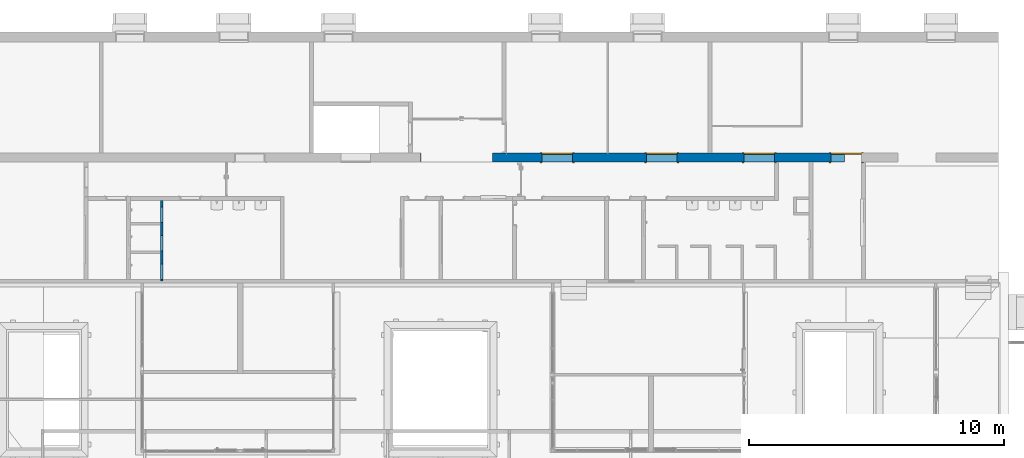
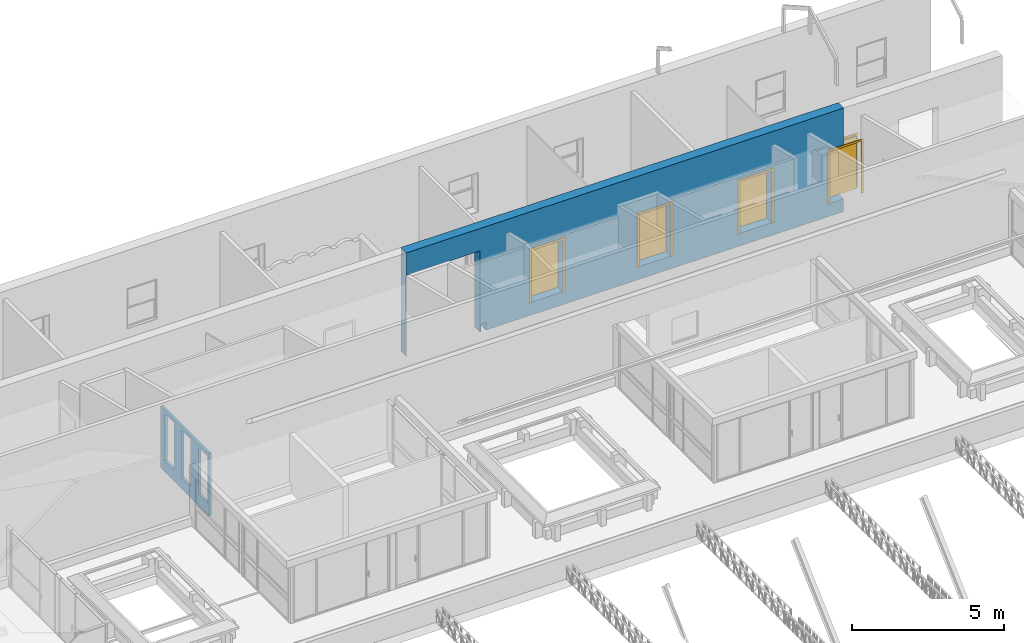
# One storey, part 137 of 153: 4 doors, 2 walls, 9 openings.
"""IFC4 building model written with IfcOpenShell, lengths in metres."""

from ifc_helpers import new_model, entity, si_unit, converted_unit, derived_unit, direction, frame, origin, place, context, subcontext, project, spatial, indexed_curve, outline, extrude, polygons, source, transform, mapped, material, constituent, constituent_set, type_object, type_shapes, element, fill, save


model = new_model("IFC4")

# Units and contexts
model_context = context("Model", 3, precision=1e-05, world=origin(), true_north=direction((6.123031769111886e-17, 1.0)))
body_context = subcontext(model_context, "Body", "Model", "MODEL_VIEW")
ifc_project = project(units=[si_unit("LENGTHUNIT", "METRE"), si_unit("AREAUNIT", "SQUARE_METRE"), si_unit("VOLUMEUNIT", "CUBIC_METRE"), converted_unit("PLANEANGLEUNIT", "DEGREE", entity("IfcRatioMeasure", 0.017453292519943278), si_unit("PLANEANGLEUNIT", "RADIAN"), dimensions=[0, 0, 0, 0, 0, 0, 0]), si_unit("MASSUNIT", "GRAM", prefix="KILO"), derived_unit("MASSDENSITYUNIT", [(si_unit("MASSUNIT", "GRAM", prefix="KILO"), 1), (si_unit("LENGTHUNIT", "METRE"), -3)]), derived_unit("MOMENTOFINERTIAUNIT", [(si_unit("LENGTHUNIT", "METRE"), 4)]), si_unit("TIMEUNIT", "SECOND"), si_unit("FREQUENCYUNIT", "HERTZ"), si_unit("THERMODYNAMICTEMPERATUREUNIT", "DEGREE_CELSIUS"), derived_unit("THERMALTRANSMITTANCEUNIT", [(si_unit("MASSUNIT", "GRAM", prefix="KILO"), 1), (si_unit("THERMODYNAMICTEMPERATUREUNIT", "KELVIN"), -1), (si_unit("TIMEUNIT", "SECOND"), -3)]), derived_unit("VOLUMETRICFLOWRATEUNIT", [(si_unit("LENGTHUNIT", "METRE"), 3), (si_unit("TIMEUNIT", "SECOND"), -1)]), derived_unit("MASSFLOWRATEUNIT", [(si_unit("MASSUNIT", "GRAM", prefix="KILO"), 1), (si_unit("TIMEUNIT", "SECOND"), -1)]), derived_unit("ROTATIONALFREQUENCYUNIT", [(si_unit("TIMEUNIT", "SECOND"), -1)]), si_unit("ELECTRICCURRENTUNIT", "AMPERE"), si_unit("ELECTRICVOLTAGEUNIT", "VOLT"), si_unit("POWERUNIT", "WATT"), si_unit("FORCEUNIT", "NEWTON", prefix="KILO"), si_unit("ILLUMINANCEUNIT", "LUX"), si_unit("LUMINOUSFLUXUNIT", "LUMEN"), si_unit("LUMINOUSINTENSITYUNIT", "CANDELA"), derived_unit("USERDEFINED", [(si_unit("MASSUNIT", "GRAM", prefix="KILO"), -1), (si_unit("LENGTHUNIT", "METRE"), -2), (si_unit("TIMEUNIT", "SECOND"), 3), (si_unit("LUMINOUSFLUXUNIT", "LUMEN"), 1)]), derived_unit("SOUNDPOWERUNIT", [(si_unit("MASSUNIT", "GRAM", prefix="KILO"), 1), (si_unit("LENGTHUNIT", "METRE"), 2), (si_unit("TIMEUNIT", "SECOND"), -3)]), derived_unit("SOUNDPRESSUREUNIT", [(si_unit("MASSUNIT", "GRAM", prefix="KILO"), 1), (si_unit("LENGTHUNIT", "METRE"), -1), (si_unit("TIMEUNIT", "SECOND"), -2)]), derived_unit("LINEARVELOCITYUNIT", [(si_unit("LENGTHUNIT", "METRE"), 1), (si_unit("TIMEUNIT", "SECOND"), -1)]), si_unit("PRESSUREUNIT", "PASCAL"), derived_unit("USERDEFINED", [(si_unit("LENGTHUNIT", "METRE"), -2), (si_unit("MASSUNIT", "GRAM", prefix="KILO"), 1), (si_unit("TIMEUNIT", "SECOND"), -2)]), derived_unit("LINEARFORCEUNIT", [(si_unit("MASSUNIT", "GRAM", prefix="KILO"), 1), (si_unit("LENGTHUNIT", "METRE"), 1), (si_unit("TIMEUNIT", "SECOND"), -2), (si_unit("LENGTHUNIT", "METRE"), -1)]), derived_unit("PLANARFORCEUNIT", [(si_unit("MASSUNIT", "GRAM", prefix="KILO"), 1), (si_unit("LENGTHUNIT", "METRE"), 1), (si_unit("TIMEUNIT", "SECOND"), -2), (si_unit("LENGTHUNIT", "METRE"), -2)])], contexts=[model_context])

# Site, building, storey
site_placement = place(None, origin())
site = spatial("IfcSite", under=ifc_project, at=site_placement, Name="Superficie", CompositionType="ELEMENT")
building_placement = place(site_placement, origin())
building = spatial("IfcBuilding", under=site, at=building_placement, CompositionType="ELEMENT")
storey_placement = place(building_placement, frame((0.0, 0.0, 3.5999999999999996)))
storey = spatial("IfcBuildingStorey", under=building, at=storey_placement, Name="Nivel 1", CompositionType="ELEMENT", Elevation=3.5999999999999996)

# Wall, openings
ifc_material_1 = material(Name="Muro por defecto", Category="Varios")
wall_type_1 = type_object("IfcWallType", Name="Muro básico:Por defecto - 10 cm", PredefinedType="STANDARD")
wall_1_placement = place(storey_placement, frame((-12.248998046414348, 8.875829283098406, 0.0), z_axis=(0.0, 0.0, 1.0), x_axis=(0.0, -1.0, 0.0)))
wall_1 = element("IfcWall", 1, at=wall_1_placement, inside=storey, type_object=wall_type_1, material=ifc_material_1, Name="Muro básico:Por defecto - 10 cm", ObjectType="Muro básico:Por defecto - 10 cm", PredefinedType="NOTDEFINED", context=body_context, shape_type="Tessellation", body=[
    polygons([(0.0, -0.050000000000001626, -5.414335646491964e-16), (0.8750000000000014, -0.050000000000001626, -5.414335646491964e-16), (0.9750000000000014, -0.050000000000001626, -5.414335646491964e-16), (3.1749999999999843, -0.050000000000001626, -5.414335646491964e-16), (3.1749999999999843, -0.050000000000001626, 2.499999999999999), (2.0800000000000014, -0.050000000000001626, 2.499999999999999), (1.9800000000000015, -0.050000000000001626, 2.499999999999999), (0.9750000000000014, -0.050000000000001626, 2.499999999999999), (0.8750000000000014, -0.050000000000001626, 2.499999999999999), (0.0, -0.050000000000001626, 2.499999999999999), (2.4996938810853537, -0.050000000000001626, 2.3499999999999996), (3.103466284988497, -0.050000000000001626, 2.3499999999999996), (3.103466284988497, -0.050000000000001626, 0.4515999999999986), (2.4996938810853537, -0.050000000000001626, 0.4515999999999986), (1.3762275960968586, -0.050000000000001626, 2.3499999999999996), (1.9800000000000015, -0.050000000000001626, 2.3499999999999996), (1.9800000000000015, -0.050000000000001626, 0.5199999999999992), (1.9800000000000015, -0.050000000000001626, 0.4515999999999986), (1.3762275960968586, -0.050000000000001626, 0.4515999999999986), (0.27122759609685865, -0.050000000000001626, 2.3499999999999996), (0.8750000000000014, -0.050000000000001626, 2.3499999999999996), (0.8750000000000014, -0.050000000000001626, 0.4515999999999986), (0.27122759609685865, -0.050000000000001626, 0.4515999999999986), (3.1749999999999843, 0.04999999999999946, -5.414335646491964e-16), (1.0828671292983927e-15, 0.04999999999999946, -5.414335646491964e-16), (0.0, 0.04999999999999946, 2.499999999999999), (3.1749999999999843, 0.04999999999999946, 2.499999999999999), (3.103466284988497, 0.04999999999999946, 2.3499999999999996), (2.4996938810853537, 0.04999999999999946, 2.3499999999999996), (2.4996938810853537, 0.04999999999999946, 0.4515999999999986), (3.103466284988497, 0.04999999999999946, 0.4515999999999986), (1.9800000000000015, 0.04999999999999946, 2.3499999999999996), (1.3762275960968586, 0.04999999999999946, 2.3499999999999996), (1.3762275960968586, 0.04999999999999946, 0.4515999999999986), (1.9800000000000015, 0.04999999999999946, 0.4515999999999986), (0.8750000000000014, 0.04999999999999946, 2.3499999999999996), (0.27122759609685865, 0.04999999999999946, 2.3499999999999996), (0.27122759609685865, 0.04999999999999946, 0.4515999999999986), (0.8750000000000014, 0.04999999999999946, 0.4515999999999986)], [[[1, 2, 3, 4, 5, 6, 7, 8, 9, 10], [11, 12, 13, 14], [15, 16, 17, 18, 19], [20, 21, 22, 23]], [[24, 25, 26, 27], [28, 29, 30, 31], [32, 33, 34, 35], [36, 37, 38, 39]], [[4, 3, 2, 1, 25, 24]], [[5, 4, 24, 27]], [[10, 9, 8, 7, 6, 5, 27, 26]], [[1, 10, 26, 25]], [[11, 29, 28, 12]], [[13, 31, 30, 14]], [[29, 11, 14, 30]], [[12, 28, 31, 13]], [[15, 33, 32, 16]], [[18, 35, 34, 19]], [[33, 15, 19, 34]], [[16, 32, 35, 18, 17]], [[20, 37, 36, 21]], [[22, 39, 38, 23]], [[37, 20, 23, 38]], [[21, 36, 39, 22]]], closed=True),
])
opening_1_placement = place(wall_1_placement, origin())
element("IfcOpeningElement", 2, at=opening_1_placement, cuts=wall_1, Name="Muro básico:Por defecto - 10 cm", PredefinedType="OPENING", context=body_context, shape_type="SweptSolid", body=[
    extrude(outline(indexed_curve([(-0.9492000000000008, -0.30188620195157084), (0.9492000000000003, -0.30188620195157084), (0.9492000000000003, 0.3018862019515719), (-0.9492000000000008, 0.3018862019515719), (-0.9492000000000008, -0.30188620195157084)], self_intersect=False)), frame((2.8015800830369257, -0.04999999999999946, 1.400799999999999), z_axis=(0.0, 1.0, 0.0), x_axis=(0.0, 0.0, -1.0)), (0.0, 0.0, 1.0), 0.09999999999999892),
])
opening_2_placement = place(wall_1_placement, origin())
element("IfcOpeningElement", 3, at=opening_2_placement, cuts=wall_1, Name="Muro básico:Por defecto - 10 cm", PredefinedType="OPENING", context=body_context, shape_type="SweptSolid", body=[
    extrude(outline(indexed_curve([(-0.9492000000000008, -0.3018862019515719), (0.9492000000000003, -0.3018862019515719), (0.9492000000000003, 0.30188620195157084), (-0.9492000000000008, 0.30188620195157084), (-0.9492000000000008, -0.3018862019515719)], self_intersect=False)), frame((1.6781137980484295, -0.04999999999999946, 1.400799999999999), z_axis=(0.0, 1.0, 0.0), x_axis=(0.0, 0.0, -1.0)), (0.0, 0.0, 1.0), 0.09999999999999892),
])
opening_3_placement = place(wall_1_placement, origin())
element("IfcOpeningElement", 4, at=opening_3_placement, cuts=wall_1, Name="Muro básico:Por defecto - 10 cm", PredefinedType="OPENING", context=body_context, shape_type="SweptSolid", body=[
    extrude(outline(indexed_curve([(-0.9492000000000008, -0.3018862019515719), (0.9492000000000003, -0.3018862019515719), (0.9492000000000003, 0.30188620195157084), (-0.9492000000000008, 0.30188620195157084), (-0.9492000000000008, -0.3018862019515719)], self_intersect=False)), frame((0.5731137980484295, -0.04999999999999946, 1.400799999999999), z_axis=(0.0, 1.0, 0.0), x_axis=(0.0, 0.0, -1.0)), (0.0, 0.0, 1.0), 0.09999999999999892),
])

# Wall, openings, doors
wall_type_2 = type_object("IfcWallType", Name="Muro básico:Por defecto - 36 cm 2", PredefinedType="STANDARD")
wall_2_placement = place(storey_placement, frame((-2.0878009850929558, 10.550829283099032, 0.0)))
wall_2 = element("IfcWall", 5, at=wall_2_placement, inside=storey, type_object=wall_type_2, material=ifc_material_1, Name="Muro básico:Por defecto - 36 cm 2", ObjectType="Muro básico:Por defecto - 36 cm 2", PredefinedType="NOTDEFINED", context=body_context, shape_type="Tessellation", body=[
    polygons([(16.638802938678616, -0.18000000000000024, 4.170000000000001), (7.029100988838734e-17, -0.18000000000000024, 4.170000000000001), (7.029100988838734e-17, -0.18000000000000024, 5.414335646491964e-16), (0.007418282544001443, -0.18000000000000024, 5.414335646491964e-16), (0.007418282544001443, -0.18000000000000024, 3.270000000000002), (2.8070587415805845, -0.18000000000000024, 3.270000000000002), (2.8070587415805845, -0.18000000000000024, 5.414335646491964e-16), (2.849353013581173, -0.18000000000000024, 5.414335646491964e-16), (2.849353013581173, -0.18000000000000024, 0.32000000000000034), (3.0293530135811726, -0.18000000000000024, 0.32000000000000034), (3.0293530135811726, -0.18000000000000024, 5.414335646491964e-16), (13.88880293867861, -0.1800000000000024, 5.414335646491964e-16), (14.03880293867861, -0.18000000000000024, 5.414335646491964e-16), (16.638802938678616, -0.18000000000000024, 5.414335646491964e-16), (16.638802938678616, -0.18000000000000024, 0.5200000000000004), (16.09880293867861, -0.18000000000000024, 0.5200000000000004), (16.09880293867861, -0.18000000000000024, 2.6199999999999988), (16.638802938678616, -0.18000000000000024, 2.6199999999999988), (4.753802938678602, -0.18000000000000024, 0.5200000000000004), (4.753802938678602, -0.18000000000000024, 2.6199999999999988), (5.9538029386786, -0.18000000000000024, 2.6199999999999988), (5.9538029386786, -0.18000000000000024, 0.5200000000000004), (8.853802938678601, -0.18000000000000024, 0.5200000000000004), (8.853802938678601, -0.18000000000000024, 2.6199999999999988), (10.053802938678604, -0.18000000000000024, 2.6199999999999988), (10.053802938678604, -0.18000000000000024, 0.5200000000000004), (12.688802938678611, -0.18000000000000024, 0.5200000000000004), (12.688802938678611, -0.18000000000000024, 2.6199999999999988), (13.88880293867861, -0.1800000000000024, 2.6199999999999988), (13.88880293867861, -0.1800000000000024, 0.5200000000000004), (-7.86441714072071e-18, 0.18000000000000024, 4.170000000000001), (16.638802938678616, 0.18000000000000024, 4.170000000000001), (16.638802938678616, 0.18000000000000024, 2.6199999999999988), (16.09880293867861, 0.18000000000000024, 2.6199999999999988), (16.098802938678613, 0.18000000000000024, 0.5200000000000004), (16.638802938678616, 0.18000000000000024, 0.5200000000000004), (16.638802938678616, 0.18000000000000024, 5.414335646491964e-16), (3.0293530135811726, 0.18000000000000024, 5.414335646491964e-16), (3.0293530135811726, 0.18000000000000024, 0.32000000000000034), (2.8493530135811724, 0.18000000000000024, 0.32000000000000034), (2.8493530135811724, 0.18000000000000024, 5.414335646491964e-16), (2.8070587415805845, 0.18000000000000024, 5.414335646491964e-16), (2.8070587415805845, 0.18000000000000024, 3.270000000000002), (0.007418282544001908, 0.18000000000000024, 3.270000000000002), (0.007418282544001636, 0.18000000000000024, 5.414335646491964e-16), (-7.86441714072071e-18, 0.18000000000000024, 5.414335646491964e-16), (4.753802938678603, 0.18000000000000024, 2.6199999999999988), (4.753802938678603, 0.18000000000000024, 0.5200000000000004), (5.953802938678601, 0.18000000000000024, 0.5200000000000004), (5.953802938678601, 0.18000000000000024, 2.6199999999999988), (8.853802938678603, 0.18000000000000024, 2.6199999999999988), (8.853802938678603, 0.18000000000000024, 0.5199999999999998), (10.053802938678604, 0.18000000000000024, 0.5199999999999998), (10.053802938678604, 0.18000000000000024, 2.6199999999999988), (12.688802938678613, 0.18000000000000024, 2.6199999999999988), (12.688802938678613, 0.18000000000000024, 0.5200000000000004), (13.888802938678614, 0.17999999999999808, 0.5200000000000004), (13.888802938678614, 0.17999999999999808, 2.6199999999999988)], [[[1, 2, 3, 4, 5, 6, 7, 8, 9, 10, 11, 12, 13, 14, 15, 16, 17, 18], [19, 20, 21, 22], [23, 24, 25, 26], [27, 28, 29, 30]], [[31, 32, 33, 34, 35, 36, 37, 38, 39, 40, 41, 42, 43, 44, 45, 46], [47, 48, 49, 50], [51, 52, 53, 54], [55, 56, 57, 58]], [[3, 46, 45, 4]], [[14, 37, 36, 15]], [[2, 1, 32, 31]], [[3, 2, 31, 46]], [[16, 35, 34, 17]], [[17, 34, 33, 18]], [[35, 16, 15, 36]], [[19, 48, 47, 20]], [[20, 47, 50, 21]], [[49, 22, 21, 50]], [[48, 19, 22, 49]], [[23, 52, 51, 24]], [[24, 51, 54, 25]], [[53, 26, 25, 54]], [[52, 23, 26, 53]], [[10, 39, 38, 11]], [[40, 9, 8, 41]], [[39, 10, 9, 40]], [[5, 44, 43, 6]], [[44, 5, 4, 45]], [[6, 43, 42, 7]], [[28, 27, 56, 55]], [[29, 28, 55, 58]], [[30, 29, 58, 57]], [[27, 30, 57, 56]], [[32, 1, 18, 33]], [[7, 42, 41, 8]], [[37, 14, 13, 12, 11, 38]]], closed=True),
])
opening_4_placement = place(wall_2_placement, origin())
element("IfcOpeningElement", 6, at=opening_4_placement, cuts=wall_2, Name="Muro básico:Por defecto - 36 cm 2", PredefinedType="OPENING", context=body_context, shape_type="SweptSolid", body=[
    extrude(outline(indexed_curve([(-1.6349999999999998, -1.3998202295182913), (1.6349999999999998, -1.3998202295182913), (1.6349999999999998, 1.3998202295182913), (-1.6349999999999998, 1.3998202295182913), (-1.6349999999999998, -1.3998202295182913)], self_intersect=False)), frame((1.407238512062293, -0.18000000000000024, 1.635000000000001), z_axis=(0.0, 1.0, 0.0), x_axis=(0.0, 0.0, -1.0)), (0.0, 0.0, 1.0), 0.3600000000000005),
])
opening_5_placement = place(wall_2_placement, origin())
element("IfcOpeningElement", 7, at=opening_5_placement, cuts=wall_2, Name="Muro básico:Por defecto - 36 cm 2", PredefinedType="OPENING", context=body_context, shape_type="SweptSolid", body=[
    extrude(outline(indexed_curve([(-0.07500000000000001, -1.049999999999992), (0.07500000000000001, -1.049999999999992), (0.07500000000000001, 1.0499999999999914), (-0.07500000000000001, 1.0499999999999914), (-0.07500000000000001, -1.049999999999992)], self_intersect=False)), frame((3.273802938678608, 0.18000000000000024, 1.5699999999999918), z_axis=(0.0, 1.0, 0.0), x_axis=(1.0, 0.0, 0.0)), (0.0, 0.0, 1.0), 1.1599999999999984),
])
opening_6_placement = place(wall_2_placement, frame((16.09880293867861, -0.18000000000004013, 0.5200000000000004)))
opening_6 = element("IfcOpeningElement", 8, at=opening_6_placement, cuts=wall_2, Name="Puerta atamborada de 2 hojas:1200 x 2100 mm 2:1", PredefinedType="OPENING", context=body_context, shape_type="SweptSolid", body=[
    extrude(outline(indexed_curve([(0.0, 5.414335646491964e-16), (2.0999999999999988, 5.414335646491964e-16), (2.099999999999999, 1.2000000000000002), (0.0, 1.2000000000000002), (0.0, 5.414335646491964e-16)], self_intersect=False)), frame((0.0, 0.0, 0.0), z_axis=(0.0, 1.0, 0.0), x_axis=(0.0, 0.0, 1.0)), (0.0, 0.0, 1.0), 0.36),
])
opening_7_placement = place(wall_2_placement, frame((4.7538029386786, -0.18000000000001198, 0.5200000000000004)))
opening_7 = element("IfcOpeningElement", 9, at=opening_7_placement, cuts=wall_2, Name="Puerta atamborada de 2 hojas:1200 x 2100 mm 2:1", PredefinedType="OPENING", context=body_context, shape_type="SweptSolid", body=[
    extrude(outline(indexed_curve([(0.0, 5.81749385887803e-32), (2.0999999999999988, 5.81749385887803e-32), (2.099999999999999, 1.1999999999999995), (0.0, 1.1999999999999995), (0.0, 5.81749385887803e-32)], self_intersect=False)), frame((0.0, 0.0, 0.0), z_axis=(0.0, 1.0, 0.0), x_axis=(0.0, 0.0, 1.0)), (0.0, 0.0, 1.0), 0.36),
])
opening_8_placement = place(wall_2_placement, frame((8.853802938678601, -0.18000000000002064, 0.5200000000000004)))
opening_8 = element("IfcOpeningElement", 10, at=opening_8_placement, cuts=wall_2, Name="Puerta atamborada de 2 hojas:1200 x 2100 mm 2:1", PredefinedType="OPENING", context=body_context, shape_type="SweptSolid", body=[
    extrude(outline(indexed_curve([(0.0, 5.414335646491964e-16), (2.0999999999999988, 5.414335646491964e-16), (2.099999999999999, 1.2000000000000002), (0.0, 1.2000000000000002), (0.0, 5.414335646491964e-16)], self_intersect=False)), frame((0.0, 0.0, 0.0), z_axis=(0.0, 1.0, 0.0), x_axis=(0.0, 0.0, 1.0)), (0.0, 0.0, 1.0), 0.36),
])
opening_9_placement = place(wall_2_placement, frame((12.688802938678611, -0.1800000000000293, 0.5200000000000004)))
opening_9 = element("IfcOpeningElement", 11, at=opening_9_placement, cuts=wall_2, Name="Puerta atamborada de 2 hojas:1200 x 2100 mm 2:1", PredefinedType="OPENING", context=body_context, shape_type="SweptSolid", body=[
    extrude(outline(indexed_curve([(0.0, 5.414335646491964e-16), (2.0999999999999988, 5.414335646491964e-16), (2.099999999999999, 1.2000000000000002), (0.0, 1.2000000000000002), (0.0, 5.414335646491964e-16)], self_intersect=False)), frame((0.0, 0.0, 0.0), z_axis=(0.0, 1.0, 0.0), x_axis=(0.0, 0.0, 1.0)), (0.0, 0.0, 1.0), 0.36),
])
ifc_material_2 = material(Name="Puerta - Panel", Category="Madera")
ifc_constituent_1 = constituent(ifc_material_2, Name="Puerta - Panel", Category="Madera")
ifc_material_3 = material(Name="Puerta - Marco", Category="Madera")
ifc_constituent_2 = constituent(ifc_material_3, Name="Puerta - Marco", Category="Madera")
ifc_constituent_set_1 = constituent_set(constituents=[ifc_constituent_1, ifc_constituent_2], Name="MaterialConstituentSet")
ifc_constituent_3 = constituent(ifc_material_2, Name="Panel", Category="Madera")
ifc_constituent_4 = constituent(ifc_material_3, Name="Marco/montante", Category="Madera")
ifc_constituent_set_2 = constituent_set(constituents=[ifc_constituent_3, ifc_constituent_4], Name="MaterialConstituentSet")
door_type = type_object("IfcDoorType", Name="Puerta atamborada de 2 hojas:1200 x 2100 mm 2", OperationType="NOTDEFINED", PredefinedType="DOOR", material=ifc_constituent_set_2)
shared_shape = source(origin(), body_context, "Body", "SweptSolid", [
    extrude(outline(indexed_curve([(-0.30000000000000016, -0.02549999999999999), (0.30000000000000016, -0.02549999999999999), (0.30000000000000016, 0.025500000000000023), (-0.30000000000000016, 0.025500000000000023), (-0.30000000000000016, -0.02549999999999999)], self_intersect=False)), frame((0.3000000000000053, 0.33450000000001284, 0.0), z_axis=(0.0, 0.0, 1.0), x_axis=(-1.0, 0.0, 0.0)), (0.0, 0.0, 1.0), 2.099999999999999),
    extrude(outline(indexed_curve([(-0.2999999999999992, -0.025499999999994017), (0.29999999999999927, -0.025499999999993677), (0.2999999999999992, 0.025499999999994), (-0.2999999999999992, 0.025499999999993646), (-0.2999999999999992, -0.025499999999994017)], self_intersect=False)), frame((0.9000000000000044, 0.33450000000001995, 0.0), z_axis=(0.0, 0.0, 1.0), x_axis=(-1.0, 0.0, 0.0)), (0.0, 0.0, 1.0), 2.0999999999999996),
    extrude(outline(indexed_curve([(-1.0309999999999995, 0.5999999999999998), (1.0689999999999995, 0.5999999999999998), (1.0689999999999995, 0.6759999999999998), (-1.1069999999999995, 0.6759999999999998), (-1.1069999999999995, -0.6759999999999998), (1.0689999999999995, -0.6759999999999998), (1.0689999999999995, -0.5999999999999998), (-1.0309999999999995, -0.5999999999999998), (-1.0309999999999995, 0.5999999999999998)], self_intersect=False)), frame((0.6000000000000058, 0.0, 1.0689999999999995), z_axis=(0.0, -1.0, 0.0), x_axis=(0.0, 0.0, -1.0)), (0.0, 0.0, 1.0), 0.024999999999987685),
    extrude(outline(indexed_curve([(-1.0309999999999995, 0.5999999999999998), (1.0689999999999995, 0.5999999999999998), (1.0689999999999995, 0.6759999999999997), (-1.1069999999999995, 0.6759999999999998), (-1.1069999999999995, -0.6759999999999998), (1.0689999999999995, -0.6759999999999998), (1.0689999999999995, -0.5999999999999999), (-1.0309999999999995, -0.5999999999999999), (-1.0309999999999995, 0.5999999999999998)], self_intersect=False)), frame((0.6000000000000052, 0.38500000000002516, 1.0689999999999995), z_axis=(0.0, -1.0, 0.0), x_axis=(0.0, 0.0, -1.0)), (0.0, 0.0, 1.0), 0.025000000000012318),
])
type_shapes(door_type, [shared_shape])
door_1_placement = place(opening_6_placement, origin())
door_1 = element("IfcDoor", 12, at=door_1_placement, inside=storey, type_object=door_type, material=ifc_constituent_set_1, Name="Puerta atamborada de 2 hojas:1200 x 2100 mm 2", ObjectType="Puerta atamborada de 2 hojas:1200 x 2100 mm 2", OperationType="NOTDEFINED", OverallHeight=2.0999999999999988, OverallWidth=1.2000000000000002, PredefinedType="DOOR", context=body_context, shape_type="MappedRepresentation", body=[
    mapped(shared_shape, transform((0.0, 0.0, 0.0), scale=1.0)),
])
fill(opening_6, door_1)
ifc_constituent_5 = constituent(ifc_material_2, Name="Puerta - Panel", Category="Madera")
ifc_constituent_6 = constituent(ifc_material_3, Name="Puerta - Marco", Category="Madera")
ifc_constituent_set_3 = constituent_set(constituents=[ifc_constituent_5, ifc_constituent_6], Name="MaterialConstituentSet")
door_2_placement = place(opening_7_placement, origin())
door_2 = element("IfcDoor", 13, at=door_2_placement, inside=storey, type_object=door_type, material=ifc_constituent_set_3, Name="Puerta atamborada de 2 hojas:1200 x 2100 mm 2", ObjectType="Puerta atamborada de 2 hojas:1200 x 2100 mm 2", OperationType="NOTDEFINED", OverallHeight=2.0999999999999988, OverallWidth=1.1999999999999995, PredefinedType="DOOR", context=body_context, shape_type="MappedRepresentation", body=[
    mapped(shared_shape, transform((0.0, 0.0, 0.0), scale=1.0)),
])
fill(opening_7, door_2)
ifc_constituent_7 = constituent(ifc_material_2, Name="Puerta - Panel", Category="Madera")
ifc_constituent_8 = constituent(ifc_material_3, Name="Puerta - Marco", Category="Madera")
ifc_constituent_set_4 = constituent_set(constituents=[ifc_constituent_7, ifc_constituent_8], Name="MaterialConstituentSet")
door_3_placement = place(opening_8_placement, origin())
door_3 = element("IfcDoor", 14, at=door_3_placement, inside=storey, type_object=door_type, material=ifc_constituent_set_4, Name="Puerta atamborada de 2 hojas:1200 x 2100 mm 2", ObjectType="Puerta atamborada de 2 hojas:1200 x 2100 mm 2", OperationType="NOTDEFINED", OverallHeight=2.0999999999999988, OverallWidth=1.2000000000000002, PredefinedType="DOOR", context=body_context, shape_type="MappedRepresentation", body=[
    mapped(shared_shape, transform((0.0, 0.0, 0.0), scale=1.0)),
])
fill(opening_8, door_3)
ifc_constituent_9 = constituent(ifc_material_2, Name="Puerta - Panel", Category="Madera")
ifc_constituent_10 = constituent(ifc_material_3, Name="Puerta - Marco", Category="Madera")
ifc_constituent_set_5 = constituent_set(constituents=[ifc_constituent_9, ifc_constituent_10], Name="MaterialConstituentSet")
door_4_placement = place(opening_9_placement, origin())
door_4 = element("IfcDoor", 15, at=door_4_placement, inside=storey, type_object=door_type, material=ifc_constituent_set_5, Name="Puerta atamborada de 2 hojas:1200 x 2100 mm 2", ObjectType="Puerta atamborada de 2 hojas:1200 x 2100 mm 2", OperationType="NOTDEFINED", OverallHeight=2.0999999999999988, OverallWidth=1.2000000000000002, PredefinedType="DOOR", context=body_context, shape_type="MappedRepresentation", body=[
    mapped(shared_shape, transform((0.0, 0.0, 0.0), scale=1.0)),
])
fill(opening_9, door_4)

save(model, "model.ifc")
